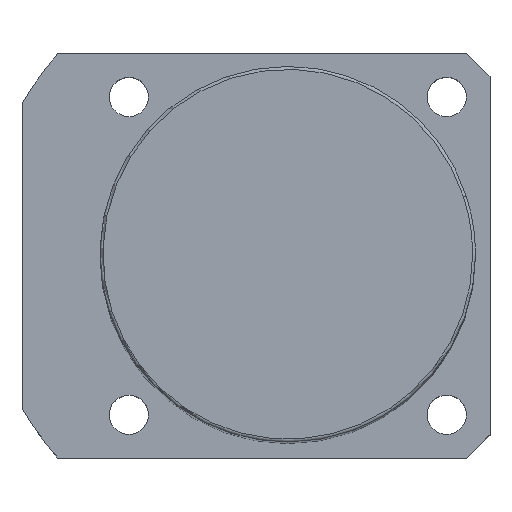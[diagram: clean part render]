
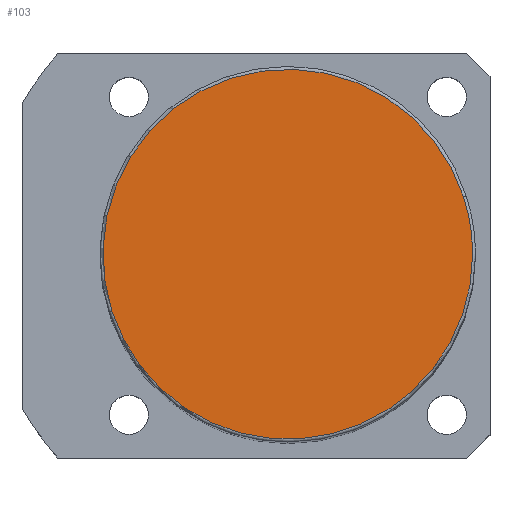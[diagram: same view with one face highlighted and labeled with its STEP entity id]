
A CAD part, top view. The second image highlights one B-rep face of the part: STEP entity #103.
In plain terms, the highlighted planar face has unit normal (0, 0, 1).
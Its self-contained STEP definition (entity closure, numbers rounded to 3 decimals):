
#16=CARTESIAN_POINT('',(-30.434,-9.889,176.0));
#17=VERTEX_POINT('',#16);
#54=CARTESIAN_POINT('',(30.434,9.889,176.0));
#55=VERTEX_POINT('',#54);
#63=CARTESIAN_POINT('',(32.0,0.0,176.0));
#64=VERTEX_POINT('',#63);
#65=CARTESIAN_POINT('',(0.0,0.0,176.0));
#66=DIRECTION('',(0.0,0.0,1.0));
#67=DIRECTION('',(1.0,0.0,0.0));
#68=AXIS2_PLACEMENT_3D('',#65,#66,#67);
#69=CIRCLE('',#68,32.0);
#70=EDGE_CURVE('no 898',#64,#55,#69,.T.);
#72=CARTESIAN_POINT('',(0.0,0.0,176.0));
#73=DIRECTION('',(0.0,0.0,1.0));
#74=DIRECTION('',(1.0,0.0,0.0));
#75=AXIS2_PLACEMENT_3D('',#72,#73,#74);
#76=CIRCLE('',#75,32.0);
#77=EDGE_CURVE('no 902',#17,#64,#76,.T.);
#87=ORIENTED_EDGE('',*,*,#70,.T.);
#88=CARTESIAN_POINT('',(0.0,0.0,176.0));
#89=DIRECTION('',(0.0,0.0,1.0));
#90=DIRECTION('',(1.0,0.0,0.0));
#91=AXIS2_PLACEMENT_3D('',#88,#89,#90);
#92=CIRCLE('',#91,32.0);
#93=EDGE_CURVE('no 911',#55,#17,#92,.T.);
#94=ORIENTED_EDGE('',*,*,#93,.T.);
#95=ORIENTED_EDGE('',*,*,#77,.T.);
#96=EDGE_LOOP('',(#87,#94,#95));
#97=FACE_OUTER_BOUND('',#96,.T.);
#98=CARTESIAN_POINT('',(0.0,0.0,176.0));
#99=DIRECTION('',(0.0,0.0,1.0));
#100=DIRECTION('',(1.0,0.0,0.0));
#101=AXIS2_PLACEMENT_3D('',#98,#99,#100);
#102=PLANE('',#101);
#103=ADVANCED_FACE('no 904',(#97),#102,.T.);
